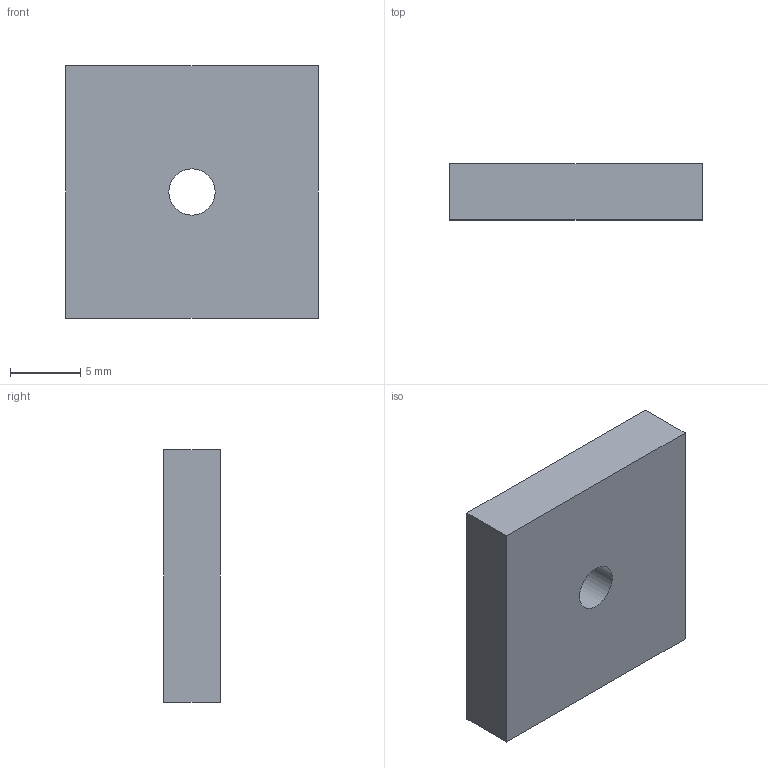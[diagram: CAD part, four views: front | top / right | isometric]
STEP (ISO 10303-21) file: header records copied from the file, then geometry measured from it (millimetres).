
FILE_DESCRIPTION(/* description */ ('Unknown'),/* implementation_level */ '2;1');
FILE_NAME(/* name */ 'BSN10M4',/* time_stamp */ '2018-11-12T17:11:29+00:00',/* author */ ('Unknown'),/* organization */ ('Unknown'),/* preprocessor_version */ 'ST-DEVELOPER v16.7',/* originating_system */ 'DEX',/* authorisation */ $);
FILE_SCHEMA (('AUTOMOTIVE_DESIGN {1 0 10303 214 3 1 1}'));
Length unit declared in the file: millimetre
Products named in the file (1): BSN10M4
Bounding box: 18 x 4 x 18 mm (x, y, z)
Volume: 1261.8 mm3; surface area: 960.4 mm2
Topology: 1 solids, 1 shells, 7 faces, 15 edges, 10 vertices
Faces by surface type: plane 6, cylinder 1
Full cylindrical faces by diameter (mm): 3.3 x1
Entity records: 220 total; most frequent: DIRECTION 32, CARTESIAN_POINT 32, ORIENTED_EDGE 28, EDGE_CURVE 14, LINE 12, VECTOR 12, VERTEX_POINT 10, EDGE_LOOP 10
